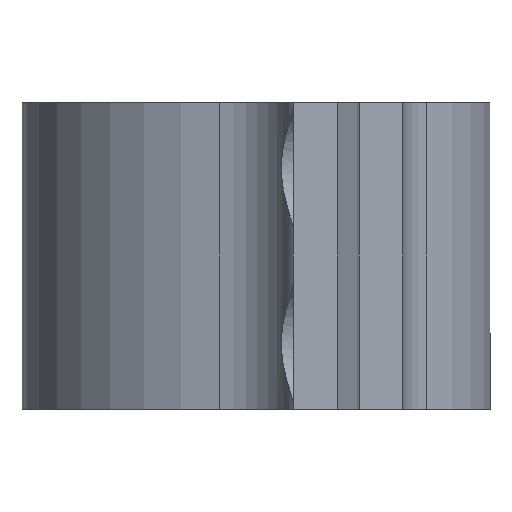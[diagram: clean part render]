
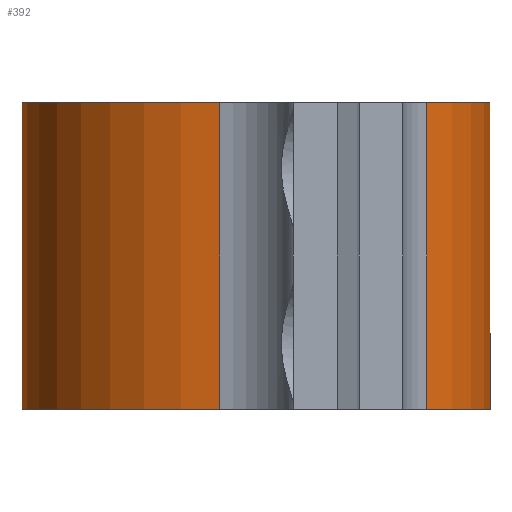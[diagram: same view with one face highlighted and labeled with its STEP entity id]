
A CAD part, left-side view. The second image highlights one B-rep face of the part: STEP entity #392.
In plain terms, the highlighted cylindrical face has radius 10.7 mm (diameter 21.4 mm), a partial arc.
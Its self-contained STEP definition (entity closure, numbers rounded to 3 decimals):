
#32=LINE('',#638,#62);
#47=LINE('',#693,#77);
#62=VECTOR('',#482,10.);
#77=VECTOR('',#535,10.);
#100=FACE_OUTER_BOUND('',#122,.T.);
#122=EDGE_LOOP('',(#311,#312,#313,#314));
#151=CIRCLE('',#441,10.7);
#156=CIRCLE('',#450,10.7);
#170=VERTEX_POINT('',#635);
#171=VERTEX_POINT('',#637);
#186=VERTEX_POINT('',#674);
#192=VERTEX_POINT('',#692);
#209=EDGE_CURVE('',#171,#170,#32,.T.);
#228=EDGE_CURVE('',#171,#186,#151,.T.);
#237=EDGE_CURVE('',#186,#192,#47,.T.);
#240=EDGE_CURVE('',#192,#170,#156,.T.);
#311=ORIENTED_EDGE('',*,*,#237,.F.);
#312=ORIENTED_EDGE('',*,*,#228,.F.);
#313=ORIENTED_EDGE('',*,*,#209,.T.);
#314=ORIENTED_EDGE('',*,*,#240,.F.);
#378=CYLINDRICAL_SURFACE('',#449,10.7);
#392=ADVANCED_FACE('',(#100),#378,.T.);
#441=AXIS2_PLACEMENT_3D('',#675,#516,#517);
#449=AXIS2_PLACEMENT_3D('',#697,#539,#540);
#450=AXIS2_PLACEMENT_3D('',#698,#541,#542);
#482=DIRECTION('',(0.,0.,1.));
#516=DIRECTION('center_axis',(0.,0.,-1.));
#517=DIRECTION('ref_axis',(-0.78,-0.626,0.));
#535=DIRECTION('',(0.,0.,1.));
#539=DIRECTION('center_axis',(0.,0.,1.));
#540=DIRECTION('ref_axis',(0.946,0.323,0.));
#541=DIRECTION('center_axis',(0.,0.,1.));
#542=DIRECTION('ref_axis',(-0.78,-0.626,0.));
#635=CARTESIAN_POINT('',(-10.568,1.674,7.));
#637=CARTESIAN_POINT('',(-10.568,1.674,-7.));
#638=CARTESIAN_POINT('',(-10.568,1.674,0.));
#674=CARTESIAN_POINT('',(-7.337,-7.788,-7.));
#675=CARTESIAN_POINT('Origin',(0.,0.,-7.));
#692=CARTESIAN_POINT('',(-7.337,-7.788,7.));
#693=CARTESIAN_POINT('',(-7.337,-7.788,0.));
#697=CARTESIAN_POINT('Origin',(0.,0.,0.));
#698=CARTESIAN_POINT('Origin',(0.,0.,7.));
